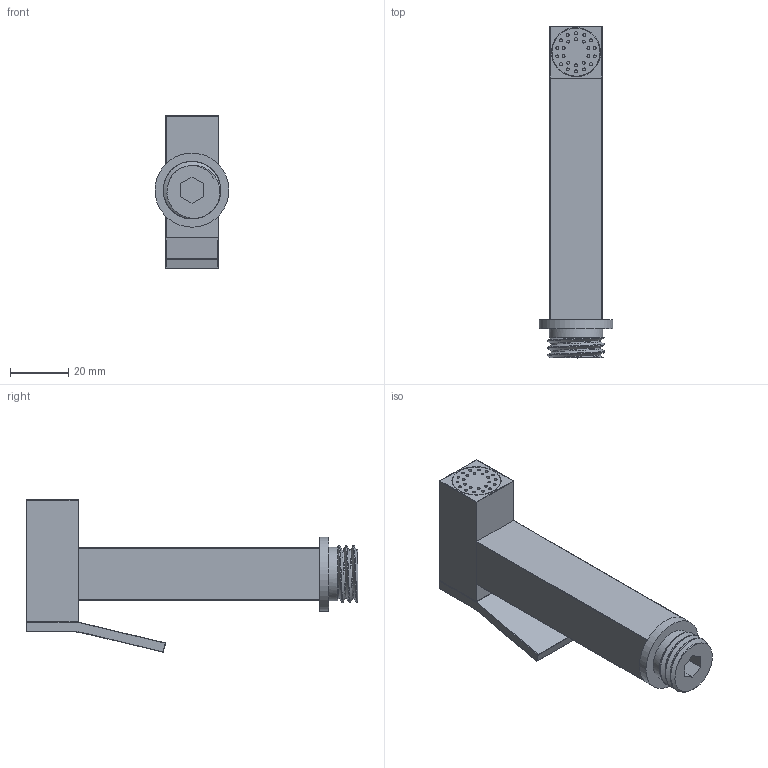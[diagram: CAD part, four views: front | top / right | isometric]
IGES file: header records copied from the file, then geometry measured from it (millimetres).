
Global section: file name: 9f8a5fdb-b138-4138-8b7a-74f3d37886d5; native system: unknown; preprocessor: unknown; author: unknown; organization: unknown; date: 20191215.192205; units: millimetre
Bounding box: 25.46 x 114.16 x 52.49 mm (x, y, z)
Volume: 44526.4 mm3; surface area: 16658.2 mm2
Topology: 4 solids, 4 shells, 147 faces, 277 edges, 166 vertices
Faces by surface type: bspline 147
